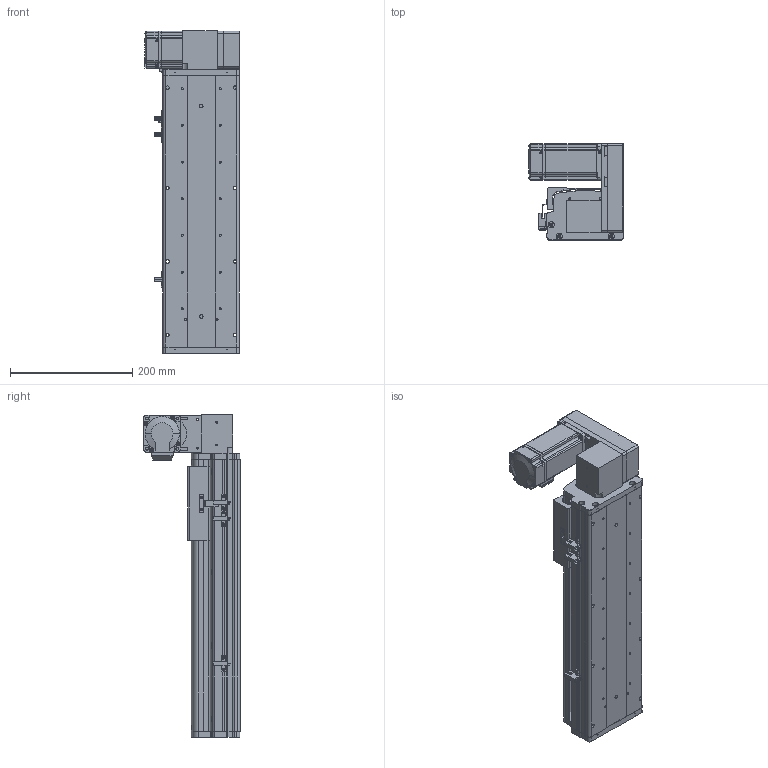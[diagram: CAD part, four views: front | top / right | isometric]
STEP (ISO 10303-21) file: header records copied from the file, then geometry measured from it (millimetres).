
FILE_DESCRIPTION (( 'STEP AP214' ), '1' );
FILE_NAME ('KSD125B-S250-MLU-CM.STEP', '2017-10-21T03:10:39', ( '微软用户' ), ( '微软中国' ), 'SwSTEP 2.0', 'SolidWorks 2014', '' );
FILE_SCHEMA (( 'AUTOMOTIVE_DESIGN' ));
Length unit declared in the file: millimetre
Products named in the file (17): 100宽马达安装板连板上下折丝杆同步带; HTPA30S3M150_A_H6_a佪裝蚚; HTPA30S3M150_A_H6_a萇儂蚚; 100宽马达安装板同步带左; KSD125模组250行程同步带-防尘盖; 125模组250行程同步带-底板; MHMD042G1CA_2_03; KSD125模组同步带-防撞垫2; 覜茼え68遵圉猾敕; U倰嫖萇假蚾璃; U倰嫖萇EEㄜSX672; KSD125模组同步带-防撞垫1; 前端板-125宽模组同步带; 125模组同步带-尾端板1; KSD125模组同步带-滑动座1; KSD125B-S250-MLU-CM; 悵誘欶奻狟殏
Assembly tree (20 placements, depth 2):
  KSD125B-S250-MLU-CM
    KSD125模组同步带-滑动座1
    125模组同步带-尾端板1
    前端板-125宽模组同步带
    KSD125模组同步带-防撞垫1
    U倰嫖萇EEㄜSX672  x3
    U倰嫖萇假蚾璃  x3
    覜茼え68遵圉猾敕
    KSD125模组同步带-防撞垫2
    MHMD042G1CA_2_03
    125模组250行程同步带-底板
    KSD125模组250行程同步带-防尘盖
    100宽马达安装板同步带左
    HTPA30S3M150_A_H6_a萇儂蚚
    HTPA30S3M150_A_H6_a佪裝蚚
    100宽马达安装板连板上下折丝杆同步带
    悵誘欶奻狟殏
Bounding box: 155 x 157.5 x 527 mm (x, y, z)
Volume: 1924461.6 mm3; surface area: 689247.3 mm2
Topology: 19 solids, 22 shells, 2203 faces, 6373 edges, 4210 vertices
Faces by surface type: cylinder 1360, plane 716, cone 105, bspline 22
Entity records: 77843 total; most frequent: CARTESIAN_POINT 15411, DIRECTION 12114, ORIENTED_EDGE 11266, EDGE_CURVE 5711, AXIS2_PLACEMENT_3D 4665, VERTEX_POINT 3802, VECTOR 2784, LINE 2784
